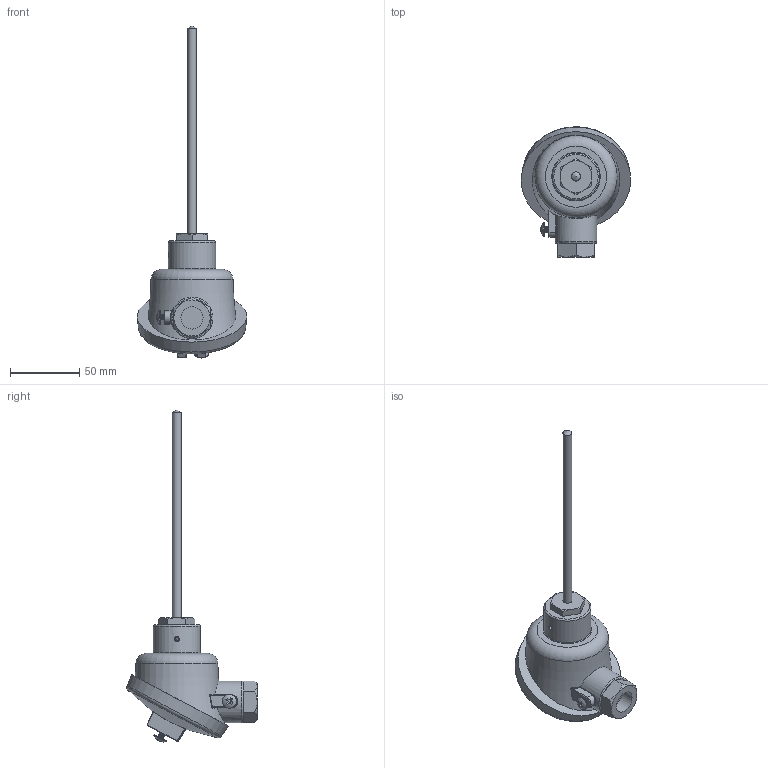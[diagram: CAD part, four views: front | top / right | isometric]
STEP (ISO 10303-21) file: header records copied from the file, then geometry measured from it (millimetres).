
FILE_DESCRIPTION (( 'STEP AP203' ), '1' );
FILE_NAME ('YIT35N-2(0).STEP', '2025-04-24T06:27:19', ( '' ), ( '' ), 'SwSTEP 2.0', 'SolidWorks 2021', '' );
FILE_SCHEMA (( 'CONFIG_CONTROL_DESIGN' ));
Length unit declared in the file: millimetre
Products named in the file (1): YIT35N-2(0)
Bounding box: 78.98 x 94.09 x 239.52 mm (x, y, z)
Volume: 204427.4 mm3; surface area: 27534.4 mm2
Topology: 1 solids, 1 shells, 180 faces, 437 edges, 269 vertices
Faces by surface type: plane 83, cylinder 38, bspline 24, cone 16, torus 11, sphere 8
Full cylindrical faces by diameter (mm): 3.6 x1, 3.8 x7, 6.4 x1, 10 x2, 16 x1, 30 x1, 34 x1
Entity records: 8112 total; most frequent: CARTESIAN_POINT 4497, ORIENTED_EDGE 752, DIRECTION 660, EDGE_CURVE 376, AXIS2_PLACEMENT_3D 253, VERTEX_POINT 239, EDGE_LOOP 207, FACE_OUTER_BOUND 190
